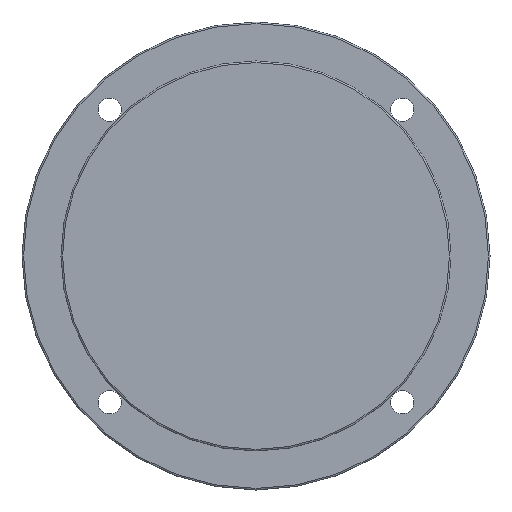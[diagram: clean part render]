
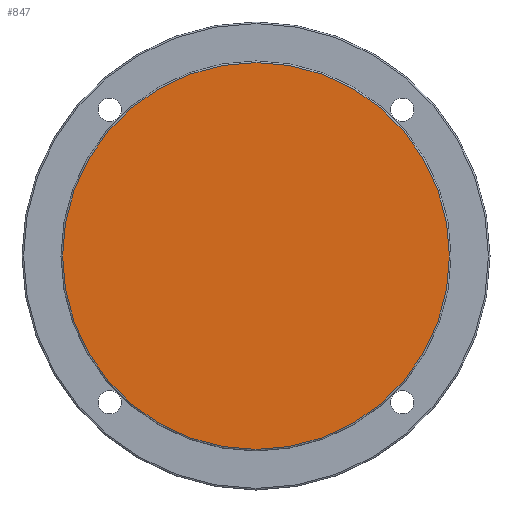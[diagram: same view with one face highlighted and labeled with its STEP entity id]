
A CAD part, left-side view. The second image highlights one B-rep face of the part: STEP entity #847.
In plain terms, the highlighted planar face has unit normal (-1, 0, 0).
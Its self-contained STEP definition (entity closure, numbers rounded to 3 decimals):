
#824=CARTESIAN_POINT('',(0.,124.0,0.0));
#825=VERTEX_POINT('',#824);
#826=CARTESIAN_POINT('',(0.,0.0,0.0));
#827=DIRECTION('',(1.0,0.0,0.0));
#828=DIRECTION('',(0.0,-1.0,0.0));
#829=AXIS2_PLACEMENT_3D('',#826,#827,#828);
#830=CIRCLE('',#829,124.0);
#831=EDGE_CURVE('',#825,#825,#830,.T.);
#839=CARTESIAN_POINT('',(0.,102.534,0.));
#840=DIRECTION('',(-1.0,0.0,0.0));
#841=DIRECTION('',(0.0,0.0,1.0));
#842=AXIS2_PLACEMENT_3D('',#839,#840,#841);
#843=PLANE('',#842);
#844=ORIENTED_EDGE('',*,*,#831,.F.);
#845=EDGE_LOOP('',(#844));
#846=FACE_OUTER_BOUND('',#845,.T.);
#847=ADVANCED_FACE('',(#846),#843,.T.);
